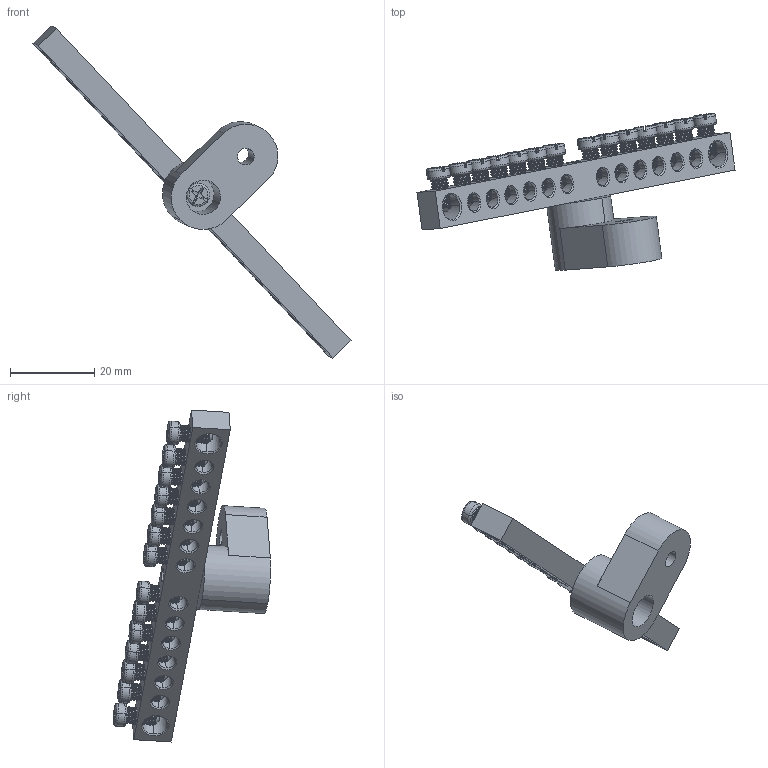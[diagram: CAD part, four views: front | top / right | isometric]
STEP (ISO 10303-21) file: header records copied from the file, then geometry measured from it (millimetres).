
FILE_DESCRIPTION (( 'STEP AP214' ), '1' );
FILE_NAME ('277930 Optikit BB-O-N-S-14-6õ9-ñèíèé.STEP', '2020-02-06T13:00:57', ( '' ), ( '' ), 'SwSTEP 2.0', 'SolidWorks 2018', '' );
FILE_SCHEMA (( 'AUTOMOTIVE_DESIGN' ));
Length unit declared in the file: millimetre
Products named in the file (5): Øèíà íóëåâàÿ ñ êðåïåæíûì îòâåðñòèåì ïî öåíòðó 6õ9 14-1_1; Øèíà 6õ9 14 1; Âèíò ì4; DIN èçîëÿòîð 2; 277930 Optikit BB-O-N-S-14-6õ9-ñèíèé
Assembly tree (18 placements, depth 3):
  277930 Optikit BB-O-N-S-14-6õ9-ñèíèé
    DIN èçîëÿòîð 2
    Âèíò ì4
    Øèíà íóëåâàÿ ñ êðåïåæíûì îòâåðñòèåì ïî öåíòðó 6õ9 14-1_1
      Øèíà 6õ9 14 1
      Âèíò ì4  x14
Bounding box: 75.57 x 37.37 x 78.9 mm (x, y, z)
Volume: 10300.8 mm3; surface area: 9738.7 mm2
Topology: 17 solids, 17 shells, 1185 faces, 3289 edges, 2124 vertices
Faces by surface type: plane 417, cylinder 412, cone 191, torus 105, bspline 60
Entity records: 9567 total; most frequent: CARTESIAN_POINT 3969, DIRECTION 1062, ORIENTED_EDGE 1058, EDGE_CURVE 529, AXIS2_PLACEMENT_3D 424, VERTEX_POINT 332, EDGE_LOOP 269, LINE 214
